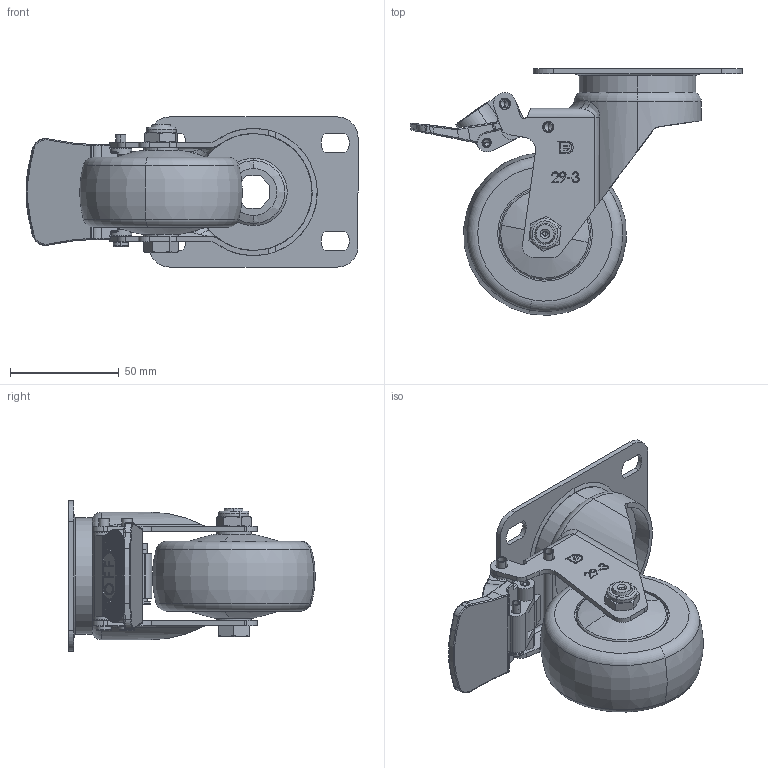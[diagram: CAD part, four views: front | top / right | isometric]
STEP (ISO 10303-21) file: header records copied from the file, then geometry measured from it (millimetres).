
FILE_DESCRIPTION (( 'STEP AP203' ), '1' );
FILE_NAME ('4112903004008-7.STEP', '2025-01-07T05:33:51', ( '' ), ( '' ), 'SwSTEP 2.0', 'SolidWorks 2019', '' );
FILE_SCHEMA (( 'CONFIG_CONTROL_DESIGN' ));
Length unit declared in the file: millimetre
Products named in the file (12): 零件1^4112903004008-29系列雙煞PPR輪-灰紅-鋅-3吋(75x31)-高級孔距(45x75)-2.3t-展示用; 242010426001 4''''.5''''儀器架煞車彈片用鉚釘-3.9x3.0x26.5L; 12130120300009 30系列高級底板(2.3t)-電鍍; 245020900003 尼龍螺帽  3 8''''(對邊14x7L); 12106170400023 儀器雙煞踏板OFF(New架用) 4''''5''''6''''共用(灰色); 12106170400022 儀器雙煞踏板ON(New架用) 4''''5''''6''''共用(灰色); 242010449001 4''''.5''''儀器輪用煞車空心鉚釘 4.8x49L; 242010434001 3''''4''''5''''儀器架用煞車鉚釘-壓直花(4x34L); 輪; 242020954001 4''''.5''''儀器.高級活動用車心 20240124A8; 212914030004 29系列雙煞腳片-沖壓 3''''用-展示用; 4112903004008-7
Assembly tree (11 placements, depth 2):
  零件1^4112903004008-29系列雙煞PPR輪-灰紅-鋅-3吋(75x31)-高級孔距(45x75)-2.3t-展示用
  4112903004008-7
    212914030004 29系列雙煞腳片-沖壓 3''''用-展示用
    輪
    242020954001 4''''.5''''儀器.高級活動用車心 20240124A8
    245020900003 尼龍螺帽  3 8''''(對邊14x7L)
    12106170400022 儀器雙煞踏板ON(New架用) 4''''5''''6''''共用(灰色)
    12106170400023 儀器雙煞踏板OFF(New架用) 4''''5''''6''''共用(灰色)
    242010449001 4''''.5''''儀器輪用煞車空心鉚釘 4.8x49L  x2
    242010426001 4''''.5''''儀器架煞車彈片用鉚釘-3.9x3.0x26.5L
    242010434001 3''''4''''5''''儀器架用煞車鉚釘-壓直花(4x34L)
    12130120300009 30系列高級底板(2.3t)-電鍍
Bounding box: 152.54 x 113.37 x 69 mm (x, y, z)
Volume: 211888.7 mm3; surface area: 73635.7 mm2
Topology: 11 solids, 13 shells, 775 faces, 2000 edges, 1282 vertices
Faces by surface type: plane 317, cylinder 200, bspline 168, cone 38, torus 32, sphere 20
Entity records: 35322 total; most frequent: CARTESIAN_POINT 16502, ORIENTED_EDGE 3924, DIRECTION 3234, EDGE_CURVE 1962, VERTEX_POINT 1263, AXIS2_PLACEMENT_3D 1120, LINE 994, VECTOR 994
